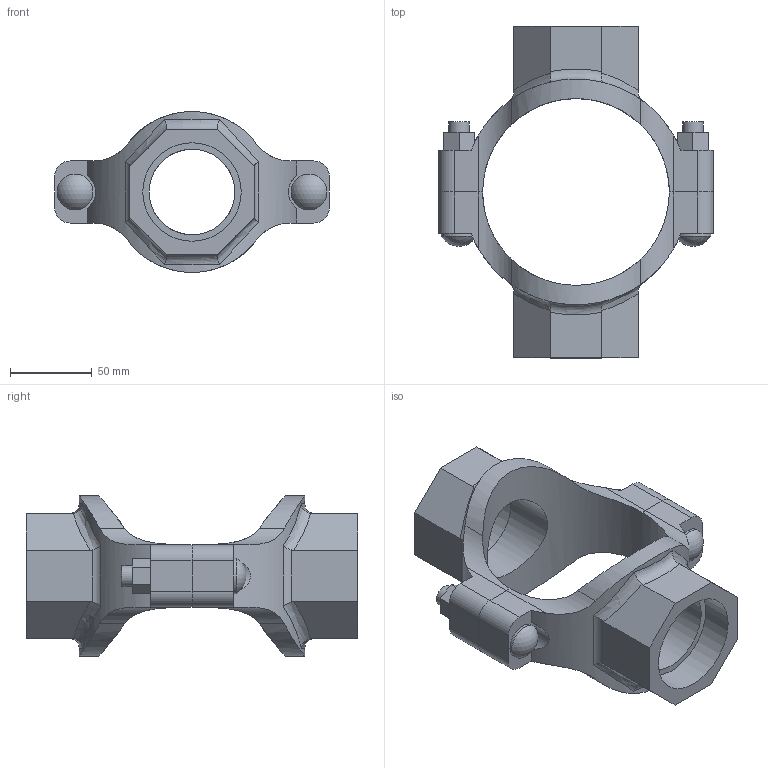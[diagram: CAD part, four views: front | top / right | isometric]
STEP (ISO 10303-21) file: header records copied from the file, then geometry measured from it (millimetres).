
FILE_DESCRIPTION(/* description */ ('VIC MECH-T BRANCH OUTLET CROSS STYLE 920N (THD)','CAx-IF Rec.Pracs.---Representation and Presentation of Product Manufacturing Information (PMI)---4.0---2014-10-13'),/* implementation_level */ '2;1');
FILE_NAME(/* name */ 'C:\Users\Vjadhav\AppData\Roaming\Autodesk\ApplicationPlugins\Back Up\Victaulic_IPS_Mechanical-Cross Outlet_Style 920N (FPT)\Victaulic_IPS_Mechanical-Cross Outlet_04.0x02.0x02.0 (100x50x50).stp',/* time_stamp */ '2020-08-06T18:58:42+05:00',/* author */ ('Vjadhav'),/* organization */ ('Victaulic'),/* preprocessor_version */ 'ST-DEVELOPER v17.2',/* originating_system */ 'Autodesk Inventor 2019',/* authorisation */ '');
FILE_SCHEMA (('AP242_MANAGED_MODEL_BASED_3D_ENGINEERING_MIM_LF { 1 0 10303 442 1 1 4 }'));
Length unit declared in the file: inch
Products named in the file (3): 920NT-04.0x02.0x02.0; 920NT-04.0x02.0; 920NT-04.0x02.0_1
Assembly tree (2 placements, depth 2):
  920NT-04.0x02.0x02.0
    920NT-04.0x02.0
    920NT-04.0x02.0_1
Bounding box: 168.4 x 203.2 x 98.44 mm (x, y, z)
Volume: 464819.9 mm3; surface area: 106654.5 mm2
Topology: 2 solids, 2 shells, 132 faces, 350 edges, 236 vertices
Faces by surface type: plane 68, cylinder 50, bspline 8, torus 4, sphere 2
Full cylindrical faces by diameter (mm): 12.7 x4, 21.982 x2, 52.387 x2, 60.325 x2
Entity records: 5366 total; most frequent: CARTESIAN_POINT 1853, ORIENTED_EDGE 700, DIRECTION 648, EDGE_CURVE 350, VERTEX_POINT 236, AXIS2_PLACEMENT_3D 231, LINE 186, VECTOR 186
